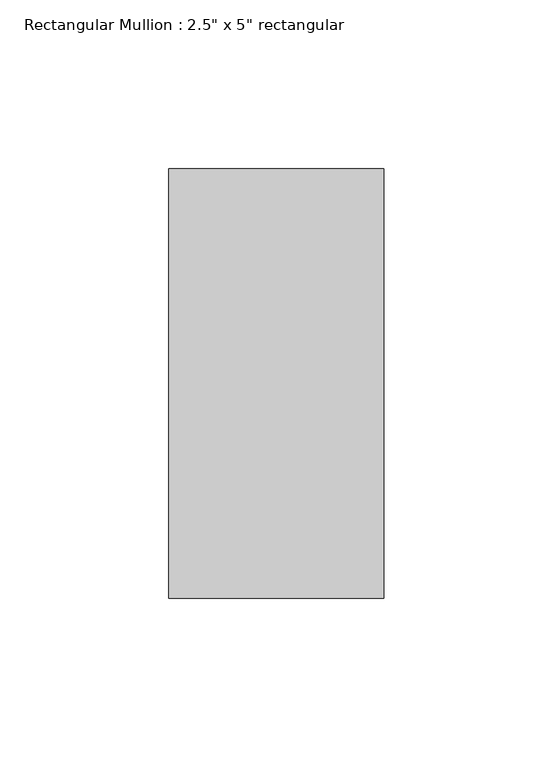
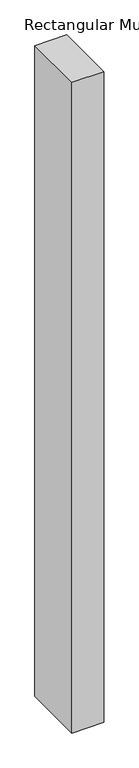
"""IFC4 building model written with IfcOpenShell, lengths in millimetres: member geometry."""

from ifc_helpers import new_model, si_unit, frame, origin, place, context, project, spatial, polyline, outline, extrude, source, transform, mapped, element, save


def member_2a656dd3(model_context):
    return source(origin(), model_context, "Body", "SweptSolid", [
        extrude(outline(polyline([(0.0, 63.5), (0.0, -63.5), (-63.5, -63.5), (-63.5, 63.5), (0.0, 63.5)])), frame((0.0, 0.0, -1362.5976312), z_axis=(0.0, 0.0, 1.0), x_axis=(1.0, 0.0, 0.0)), (0.0, 0.0, 1.0), 1362.5976312),
    ])


if __name__ == "__main__":
    model = new_model("IFC4")
    model_context = context("Model", 3, world=origin())
    ifc_project = project(units=[si_unit("LENGTHUNIT", "METRE", prefix="MILLI")], contexts=[model_context])
    site = spatial("IfcSite", under=ifc_project)
    building = spatial("IfcBuilding", under=site)
    placement = place(None, origin())
    member_shape = member_2a656dd3(model_context)
    element("IfcMember", 1, ObjectType="Rectangular Mullion : 2.5\" x 5\" rectangular", at=placement, inside=building, context=model_context, shape_type="MappedRepresentation", body=[
        mapped(member_shape, transform((0.0, 0.0, 0.0), x_axis=(1.0, 0.0, 0.0), y_axis=(0.0, 1.0, 0.0), z_axis=(0.0, 0.0, 1.0))),
    ])
    save(model, "model.ifc")
